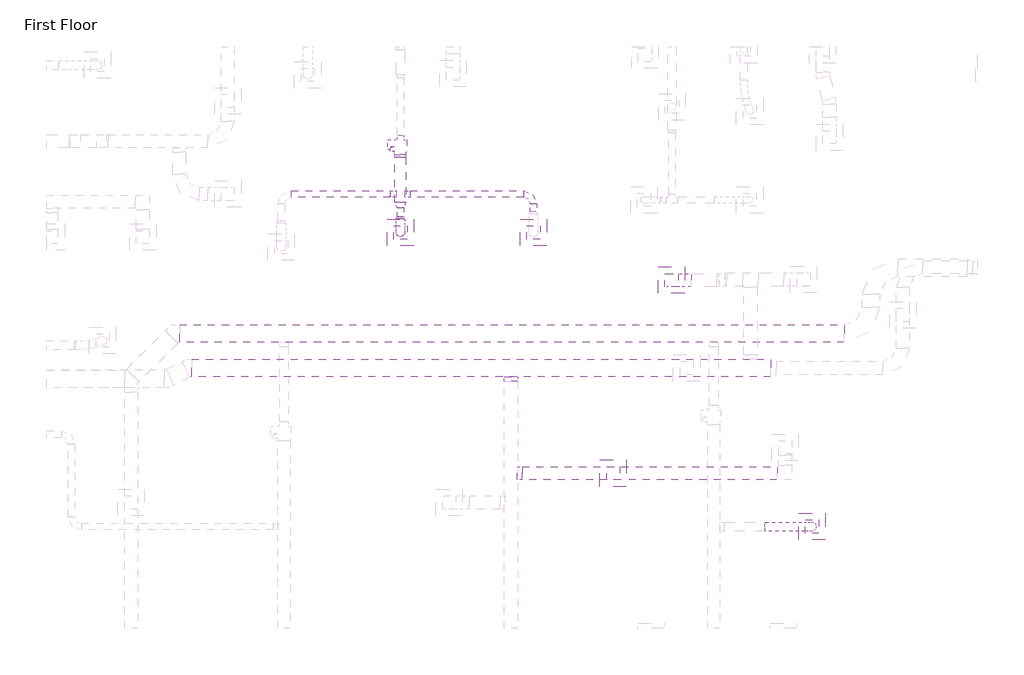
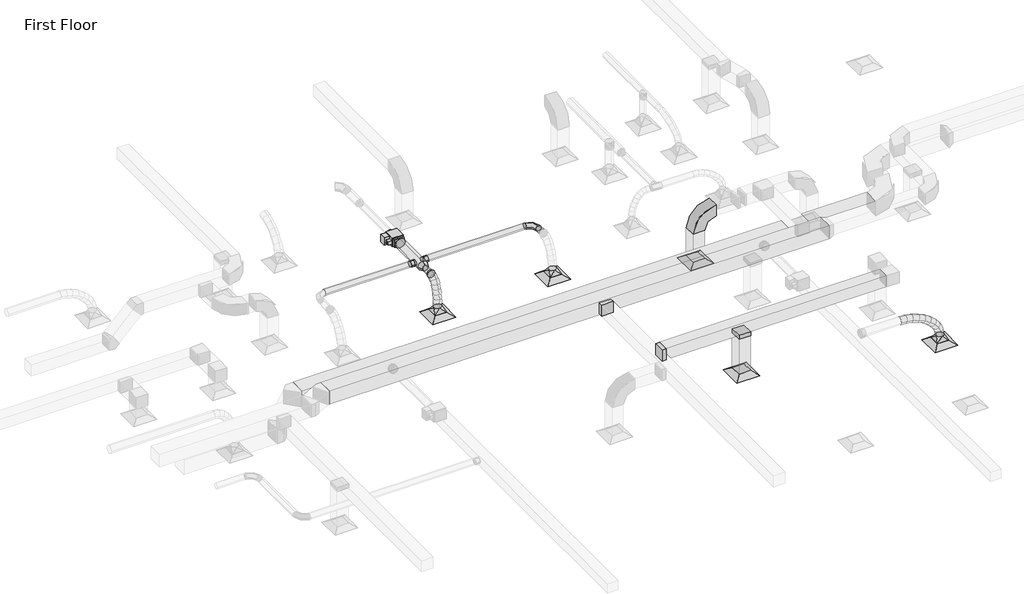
# One storey, part 17 of 61: 13 duct fittings, 12 duct segments, 5 air terminals, 1 proxy.
"""IFC4 building model written with IfcOpenShell, lengths in millimetres."""

from ifc_helpers import new_model, si_unit, point, frame, frame_2d, origin, place, context, project, spatial, polyline, circle_curve, ellipse_curve, trimmed, segment, composite_curve, outline, extrude, transform, mapped, element, save
from ifc_brep_helpers import plane_surface, cylinder_surface, advanced_brep
from components import m_exhaust_grill_er_600_x_600_face_300_x_300_connection_ff221211, m_vav_unit_single_duct_150_mm_ffdab17b, m_rectangular_elbow_radius_1_5_w_86011e9f, m_rectangular_takeoff_standard_c00386d1, m_rectangular_takeoff_standard_b44bfa45, m_rectangular_to_round_transition_angle_45_degree_60daae35, m_rectangular_to_round_transition_angle_45_degree_a335dc79, m_round_elbow_1_5_d_2e586196, m_round_takeoff_standard_b5c2ee18, m_round_takeoff_standard_ab57c574, m_round_transition_angle_45_degree_3fc7b733, m_round_transition_angle_45_degree_25573e05

model = new_model("IFC4")

# Units and contexts
model_context = context("Model", 3, world=origin())
ifc_project = project(units=[si_unit("LENGTHUNIT", "METRE", prefix="MILLI")], contexts=[model_context])

# Site, building, storey
site = spatial("IfcSite", under=ifc_project)
building = spatial("IfcBuilding", under=site)
storey = spatial("IfcBuildingStorey", under=building, Name="First Floor", Elevation=0.0)

# Air terminals
placement = place(None, origin())
m_exhaust_grill_er_600_x_600_face_300_x_300_connection_shape = m_exhaust_grill_er_600_x_600_face_300_x_300_connection_ff221211(model_context)
element("IfcAirTerminal", 1, ObjectType="M_Return Register : RR-600 x 600 Face 300 x 300 Connection", at=placement, inside=storey, context=model_context, shape_type="MappedRepresentation", body=[
    mapped(m_exhaust_grill_er_600_x_600_face_300_x_300_connection_shape, transform((-25363.5618049, 8398.5997354, 2680.0), x_axis=(1.0, 0.0, 0.0), y_axis=(0.0, 1.0, 0.0), z_axis=(0.0, 0.0, 1.0))),
])
element("IfcAirTerminal", 2, ObjectType="M_Return Register : RR-600 x 600 Face 300 x 300 Connection", at=placement, inside=storey, context=model_context, shape_type="MappedRepresentation", body=[
    mapped(m_exhaust_grill_er_600_x_600_face_300_x_300_connection_shape, transform((-24047.3621793, 12763.224946, 2680.0), x_axis=(1.0, 0.0, 0.0), y_axis=(0.0, 1.0, 0.0), z_axis=(0.0, 0.0, 1.0))),
])
element("IfcAirTerminal", 3, ObjectType="M_Supply Diffuser : SD-600 x 600 Face 300 x 300 Connection", at=placement, inside=storey, context=model_context, shape_type="MappedRepresentation", body=[
    mapped(m_exhaust_grill_er_600_x_600_face_300_x_300_connection_shape, transform((-20866.886103, 7192.6438141, 2680.0), x_axis=(1.0, 0.0, 0.0), y_axis=(0.0, 1.0, 0.0), z_axis=(0.0, 0.0, 1.0))),
])
element("IfcAirTerminal", 4, ObjectType="M_Supply Diffuser : SD-600 x 600 Face 300 x 300 Connection", at=placement, inside=storey, context=model_context, shape_type="MappedRepresentation", body=[
    mapped(m_exhaust_grill_er_600_x_600_face_300_x_300_connection_shape, transform((-30173.6102802, 13843.104531, 2680.0), x_axis=(1.0, 0.0, 0.0), y_axis=(0.0, 1.0, 0.0), z_axis=(0.0, 0.0, 1.0))),
])
element("IfcAirTerminal", 5, ObjectType="M_Supply Diffuser : SD-600 x 600 Face 300 x 300 Connection", at=placement, inside=storey, context=model_context, shape_type="MappedRepresentation", body=[
    mapped(m_exhaust_grill_er_600_x_600_face_300_x_300_connection_shape, transform((-27166.0530571, 13843.104531, 2680.0), x_axis=(1.0, 0.0, 0.0), y_axis=(0.0, 1.0, 0.0), z_axis=(0.0, 0.0, 1.0))),
])

# Proxy
m_vav_unit_single_duct_150_mm_shape = m_vav_unit_single_duct_150_mm_ffdab17b(model_context)
element("IfcBuildingElementProxy", 6, Name="M_VAV Unit - Single Duct : 150 mm", ObjectType="M_VAV Unit - Single Duct : 150 mm", at=placement, inside=storey, context=model_context, shape_type="MappedRepresentation", body=[
    mapped(m_vav_unit_single_duct_150_mm_shape, transform((-30173.6102802, 15943.104531, 3500.0), x_axis=(0.0, -1.0000000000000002, 0.0), y_axis=(1.0000000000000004, 0.0, 0.0), z_axis=(0.0, 0.0, 1.0000000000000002))),
])

# Duct fittings
m_rectangular_elbow_radius_1_5_w_shape = m_rectangular_elbow_radius_1_5_w_86011e9f(model_context)
element("IfcDuctFitting", 7, ObjectType="M_Rectangular Elbow - Radius : 1.5 W", at=placement, inside=storey, context=model_context, shape_type="MappedRepresentation", body=[
    mapped(m_rectangular_elbow_radius_1_5_w_shape, transform((-24047.3621793, 12763.224946, 4000.0), x_axis=(0.0, 0.0, 1.0), y_axis=(1.0, 0.0, 0.0), z_axis=(0.0, 1.0, 0.0))),
])
m_rectangular_takeoff_standard_shape = m_rectangular_takeoff_standard_c00386d1(model_context)
element("IfcDuctFitting", 8, ObjectType="M_Rectangular Takeoff : Standard", at=placement, inside=storey, context=model_context, shape_type="MappedRepresentation", body=[
    mapped(m_rectangular_takeoff_standard_shape, transform((-25363.5618049, 8398.5997354, 3850.0), x_axis=(0.0, 0.0, -1.0), y_axis=(0.0, 1.0, 0.0), z_axis=(1.0, 0.0, 0.0))),
])
element("IfcDuctFitting", 9, ObjectType="M_Rectangular Takeoff : Standard", at=placement, inside=storey, context=model_context, shape_type="MappedRepresentation", body=[
    mapped(m_rectangular_takeoff_standard_shape, transform((-27671.2581409, 10577.8718477, 4000.0), x_axis=(0.0, -1.0, 0.0), y_axis=(-1.0, 0.0, 0.0), z_axis=(0.0, 0.0, -1.0))),
])
m_rectangular_takeoff_standard_2_shape = m_rectangular_takeoff_standard_b44bfa45(model_context)
element("IfcDuctFitting", 10, ObjectType="M_Rectangular Takeoff : Standard", at=placement, inside=storey, context=model_context, shape_type="MappedRepresentation", body=[
    mapped(m_rectangular_takeoff_standard_2_shape, transform((-27521.2581409, 8398.5997354, 4000.0), x_axis=(1.0, 0.0, 0.0), y_axis=(0.0, -1.0, 0.0), z_axis=(0.0, 0.0, -1.0))),
])
m_rectangular_to_round_transition_angle_45_degree_shape = m_rectangular_to_round_transition_angle_45_degree_60daae35(model_context)
element("IfcDuctFitting", 11, ObjectType="M_Rectangular to Round Transition - Angle : 45 Degree", at=placement, inside=storey, context=model_context, shape_type="MappedRepresentation", body=[
    mapped(m_rectangular_to_round_transition_angle_45_degree_shape, transform((-20866.886103, 7192.6438141, 2781.6), x_axis=(0.0, 0.0, 1.0), y_axis=(1.0, 0.0, 0.0), z_axis=(0.0, 1.0, 0.0))),
])
element("IfcDuctFitting", 12, ObjectType="M_Rectangular to Round Transition - Angle : 45 Degree", at=placement, inside=storey, context=model_context, shape_type="MappedRepresentation", body=[
    mapped(m_rectangular_to_round_transition_angle_45_degree_shape, transform((-27166.0530571, 13843.104531, 2781.6), x_axis=(0.0, 0.0, 1.0), y_axis=(1.0, 0.0, 0.0), z_axis=(0.0, 1.0, 0.0))),
])
element("IfcDuctFitting", 13, ObjectType="M_Rectangular to Round Transition - Angle : 45 Degree", at=placement, inside=storey, context=model_context, shape_type="MappedRepresentation", body=[
    mapped(m_rectangular_to_round_transition_angle_45_degree_shape, transform((-30173.6102802, 13843.104531, 2781.6), x_axis=(0.0, 0.0, 1.0), y_axis=(1.0, 0.0, 0.0), z_axis=(0.0, 1.0, 0.0))),
])
m_rectangular_to_round_transition_angle_45_degree_2_shape = m_rectangular_to_round_transition_angle_45_degree_a335dc79(model_context)
element("IfcDuctFitting", 14, ObjectType="M_Rectangular to Round Transition - Angle : 45 Degree", at=placement, inside=storey, context=model_context, shape_type="MappedRepresentation", body=[
    mapped(m_rectangular_to_round_transition_angle_45_degree_2_shape, transform((-30173.6102802, 15600.304531, 3619.05), x_axis=(0.0, -1.0, 0.0), y_axis=(1.0, 0.0, 0.0), z_axis=(0.0, 0.0, 1.0))),
])
m_round_elbow_1_5_d_shape = m_round_elbow_1_5_d_2e586196(model_context)
element("IfcDuctFitting", 15, ObjectType="M_Round Elbow : 1.5 D", at=placement, inside=storey, context=model_context, shape_type="MappedRepresentation", body=[
    mapped(m_round_elbow_1_5_d_shape, transform((-27166.0530571, 14711.7643739, 3619.1), x_axis=(0.0, 1.0, 0.0), y_axis=(-1.0, 0.0, 0.0), z_axis=(0.0, 0.0, 1.0))),
])
m_round_takeoff_standard_shape = m_round_takeoff_standard_b5c2ee18(model_context)
element("IfcDuctFitting", 16, ObjectType="M_Round Takeoff : Standard", at=placement, inside=storey, context=model_context, shape_type="MappedRepresentation", body=[
    mapped(m_round_takeoff_standard_shape, transform((-30048.6102802, 14711.7643739, 3619.1), x_axis=(1.0, 0.0, 0.0), y_axis=(0.0, -1.0, 0.0), z_axis=(0.0, 0.0, -1.0))),
])
m_round_takeoff_standard_2_shape = m_round_takeoff_standard_ab57c574(model_context)
element("IfcDuctFitting", 17, ObjectType="M_Round Takeoff : Standard", at=placement, inside=storey, context=model_context, shape_type="MappedRepresentation", body=[
    mapped(m_round_takeoff_standard_2_shape, transform((-30298.6102802, 14711.7643739, 3619.1), x_axis=(-1.0, 0.0, 0.0), y_axis=(0.0, 1.0, 0.0), z_axis=(0.0, 0.0, -1.0))),
])
m_round_transition_angle_45_degree_shape = m_round_transition_angle_45_degree_3fc7b733(model_context)
element("IfcDuctFitting", 18, ObjectType="M_Round Transition - Angle : 45 Degree", at=placement, inside=storey, context=model_context, shape_type="MappedRepresentation", body=[
    mapped(m_round_transition_angle_45_degree_shape, transform((-30173.6102802, 14200.304531, 3619.1), x_axis=(0.0, -1.0, 0.0), y_axis=(1.0, 0.0, 0.0), z_axis=(0.0, 0.0, 1.0))),
])
m_round_transition_angle_45_degree_2_shape = m_round_transition_angle_45_degree_25573e05(model_context)
element("IfcDuctFitting", 19, ObjectType="M_Round Transition - Angle : 45 Degree", at=placement, inside=storey, context=model_context, shape_type="MappedRepresentation", body=[
    mapped(m_round_transition_angle_45_degree_2_shape, transform((-30173.6102802, 14400.304531, 3619.1), x_axis=(0.0, 1.0, 0.0), y_axis=(-1.0, 0.0, 0.0), z_axis=(0.0, 0.0, 1.0))),
])

# Duct segments
element("IfcDuctSegment", 20, ObjectType="Flex - Round", at=placement, inside=storey, context=model_context, shape_type="AdvancedBrep", body=[
    advanced_brep(
    [(-21926.3984341, 7292.6438141, 3644.1), (-21933.8801089, 7192.6438141, 3544.38027), (-21926.3984341, 7092.6438141, 3644.1), (-21918.9167594, 7192.6438141, 3743.81973), (-21776.5167047, 7292.6438141, 3632.8548196), (-21790.4654941, 7192.6438141, 3533.6202981), (-21776.5167047, 7092.6438141, 3632.8548196), (-21762.5679153, 7192.6438141, 3732.0893412), (-20866.886103, 7292.6438141, 2902.3106781), (-20768.1313425, 7192.6438141, 2918.0427241), (-20866.886103, 7092.6438141, 2902.3106781), (-20965.6408635, 7192.6438141, 2886.5786322), (-21618.8184035, 7292.6438141, 3600.1629223), (-21644.7759817, 7192.6438141, 3503.4179018), (-21618.8184035, 7092.6438141, 3600.1629223), (-21592.8608253, 7192.6438141, 3696.9079428), (-21460.0990046, 7292.6438141, 3547.5897736), (-21496.9666156, 7192.6438141, 3454.4585191), (-21460.0990046, 7092.6438141, 3547.5897736), (-21423.2313936, 7192.6438141, 3640.721028), (-21307.1539819, 7292.6438141, 3476.7008391), (-21354.8425657, 7192.6438141, 3388.5850289), (-21307.1539819, 7092.6438141, 3476.7008391), (-21259.4653982, 7192.6438141, 3564.8166494), (-21166.7788096, 7292.6438141, 3389.0615846), (-21225.9499244, 7192.6438141, 3308.1145668), (-21166.7788096, 7092.6438141, 3389.0615846), (-21107.6076947, 7192.6438141, 3470.0086025), (-21045.7689615, 7292.6438141, 3286.2374756), (-21117.5103126, 7192.6438141, 3215.9715996), (-21045.7689615, 7092.6438141, 3286.2374756), (-20974.0276103, 7192.6438141, 3356.5033517), (-20950.9199116, 7292.6438141, 3169.7939778), (-21035.8981828, 7192.6438141, 3115.7786943), (-20950.9199116, 7092.6438141, 3169.7939778), (-20865.9416405, 7192.6438141, 3223.8092613), (-20889.0271342, 7292.6438141, 3041.2965567), (-20985.4774267, 7192.6438141, 3011.0986752), (-20889.0271342, 7092.6438141, 3041.2965567), (-20792.5768417, 7192.6438141, 3071.4944383)],
    [
        (0, 1, circle_curve(frame((-21926.3984341, 7192.6438141, 3644.1), z_axis=(-0.9971972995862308, 0.0, 0.0748167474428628), x_axis=(0.0, 1.0, 0.0)), 100.0)),
        (1, 2, circle_curve(frame((-21926.3984341, 7192.6438141, 3644.1), z_axis=(-0.9971972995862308, 0.0, 0.0748167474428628), x_axis=(0.0, 1.0, 0.0)), 100.0)),
        (2, 3, circle_curve(frame((-21926.3984341, 7192.6438141, 3644.1), z_axis=(-0.9971972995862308, 0.0, 0.0748167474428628), x_axis=(0.0, 1.0, 0.0)), 100.0)),
        (3, 0, circle_curve(frame((-21926.3984341, 7192.6438141, 3644.1), z_axis=(-0.9971972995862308, 0.0, 0.0748167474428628), x_axis=(0.0, 1.0, 0.0)), 100.0)),
        (0, 4),
        (4, 5, ellipse_curve(frame((-21776.5167047, 7192.6438141, 3632.8548196), z_axis=(-0.9902649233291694, 0.0, 0.13919547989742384), x_axis=(-0.1391954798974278, 0.0, -0.9902649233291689)), 100.2100743, 100.0)),
        (5, 1),
        (5, 6, ellipse_curve(frame((-21776.5167047, 7192.6438141, 3632.8548196), z_axis=(-0.9902649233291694, 0.0, 0.13919547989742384), x_axis=(-0.1391954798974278, 0.0, -0.9902649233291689)), 100.2100743, 100.0)),
        (6, 2),
        (6, 7, ellipse_curve(frame((-21776.5167047, 7192.6438141, 3632.8548196), z_axis=(-0.9902649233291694, 0.0, 0.13919547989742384), x_axis=(-0.1391954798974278, 0.0, -0.9902649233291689)), 100.2100743, 100.0)),
        (7, 3),
        (7, 4, ellipse_curve(frame((-21776.5167047, 7192.6438141, 3632.8548196), z_axis=(-0.9902649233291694, 0.0, 0.13919547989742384), x_axis=(-0.1391954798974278, 0.0, -0.9902649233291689)), 100.2100743, 100.0)),
        (8, 9, circle_curve(frame((-20866.886103, 7192.6438141, 2902.3106781), z_axis=(0.15732045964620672, 0.0, -0.9875476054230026), x_axis=(0.0, 1.0, 0.0)), 100.0)),
        (9, 10, circle_curve(frame((-20866.886103, 7192.6438141, 2902.3106781), z_axis=(0.15732045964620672, 0.0, -0.9875476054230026), x_axis=(0.0, 1.0, 0.0)), 100.0)),
        (10, 11, circle_curve(frame((-20866.886103, 7192.6438141, 2902.3106781), z_axis=(0.15732045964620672, 0.0, -0.9875476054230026), x_axis=(0.0, 1.0, 0.0)), 100.0)),
        (11, 8, circle_curve(frame((-20866.886103, 7192.6438141, 2902.3106781), z_axis=(0.15732045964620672, 0.0, -0.9875476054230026), x_axis=(0.0, 1.0, 0.0)), 100.0)),
        (4, 12),
        (12, 13, ellipse_curve(frame((-21618.8184035, 7192.6438141, 3600.1629223), z_axis=(-0.9658388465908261, 0.0, 0.25914343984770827), x_axis=(-0.2591434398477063, 0.0, -0.9658388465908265)), 100.1668351, 100.0)),
        (13, 5),
        (13, 14, ellipse_curve(frame((-21618.8184035, 7192.6438141, 3600.1629223), z_axis=(-0.9658388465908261, 0.0, 0.25914343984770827), x_axis=(-0.2591434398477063, 0.0, -0.9658388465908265)), 100.1668351, 100.0)),
        (14, 6),
        (14, 15, ellipse_curve(frame((-21618.8184035, 7192.6438141, 3600.1629223), z_axis=(-0.9658388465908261, 0.0, 0.25914343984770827), x_axis=(-0.2591434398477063, 0.0, -0.9658388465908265)), 100.1668351, 100.0)),
        (15, 7),
        (15, 12, ellipse_curve(frame((-21618.8184035, 7192.6438141, 3600.1629223), z_axis=(-0.9658388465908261, 0.0, 0.25914343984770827), x_axis=(-0.2591434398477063, 0.0, -0.9658388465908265)), 100.1668351, 100.0)),
        (12, 16),
        (16, 17, ellipse_curve(frame((-21460.0990046, 7192.6438141, 3547.5897736), z_axis=(-0.9297958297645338, 0.0, 0.3680756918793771), x_axis=(-0.3680756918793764, 0.0, -0.9297958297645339)), 100.1631234, 100.0)),
        (17, 13),
        (17, 18, ellipse_curve(frame((-21460.0990046, 7192.6438141, 3547.5897736), z_axis=(-0.9297958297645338, 0.0, 0.3680756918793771), x_axis=(-0.3680756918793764, 0.0, -0.9297958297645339)), 100.1631234, 100.0)),
        (18, 14),
        (18, 19, ellipse_curve(frame((-21460.0990046, 7192.6438141, 3547.5897736), z_axis=(-0.9297958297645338, 0.0, 0.3680756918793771), x_axis=(-0.3680756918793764, 0.0, -0.9297958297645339)), 100.1631234, 100.0)),
        (19, 15),
        (19, 16, ellipse_curve(frame((-21460.0990046, 7192.6438141, 3547.5897736), z_axis=(-0.9297958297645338, 0.0, 0.3680756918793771), x_axis=(-0.3680756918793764, 0.0, -0.9297958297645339)), 100.1631234, 100.0)),
        (16, 20),
        (20, 21, ellipse_curve(frame((-21307.1539819, 7192.6438141, 3476.7008391), z_axis=(-0.8794625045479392, 0.0, 0.4759681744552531), x_axis=(-0.47596817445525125, 0.0, -0.8794625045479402)), 100.1927993, 100.0)),
        (21, 17),
        (21, 22, ellipse_curve(frame((-21307.1539819, 7192.6438141, 3476.7008391), z_axis=(-0.8794625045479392, 0.0, 0.4759681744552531), x_axis=(-0.47596817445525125, 0.0, -0.8794625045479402)), 100.1927993, 100.0)),
        (22, 18),
        (22, 23, ellipse_curve(frame((-21307.1539819, 7192.6438141, 3476.7008391), z_axis=(-0.8794625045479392, 0.0, 0.4759681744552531), x_axis=(-0.47596817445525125, 0.0, -0.8794625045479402)), 100.1927993, 100.0)),
        (23, 19),
        (23, 20, ellipse_curve(frame((-21307.1539819, 7192.6438141, 3476.7008391), z_axis=(-0.8794625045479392, 0.0, 0.4759681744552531), x_axis=(-0.47596817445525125, 0.0, -0.8794625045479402)), 100.1927993, 100.0)),
        (20, 24),
        (24, 25, ellipse_curve(frame((-21166.7788096, 7192.6438141, 3389.0615846), z_axis=(-0.8073078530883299, 0.0, 0.5901305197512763), x_axis=(-0.5901305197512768, 0.0, -0.8073078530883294)), 100.267844, 100.0)),
        (25, 21),
        (25, 26, ellipse_curve(frame((-21166.7788096, 7192.6438141, 3389.0615846), z_axis=(-0.8073078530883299, 0.0, 0.5901305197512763), x_axis=(-0.5901305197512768, 0.0, -0.8073078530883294)), 100.267844, 100.0)),
        (26, 22),
        (26, 27, ellipse_curve(frame((-21166.7788096, 7192.6438141, 3389.0615846), z_axis=(-0.8073078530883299, 0.0, 0.5901305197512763), x_axis=(-0.5901305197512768, 0.0, -0.8073078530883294)), 100.267844, 100.0)),
        (27, 23),
        (27, 24, ellipse_curve(frame((-21166.7788096, 7192.6438141, 3389.0615846), z_axis=(-0.8073078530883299, 0.0, 0.5901305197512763), x_axis=(-0.5901305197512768, 0.0, -0.8073078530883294)), 100.267844, 100.0)),
        (24, 28),
        (28, 29, ellipse_curve(frame((-21045.7689615, 7192.6438141, 3286.2374756), z_axis=(-0.6997220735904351, 0.0, 0.7144151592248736), x_axis=(-0.7144151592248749, 0.0, -0.6997220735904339)), 100.4196933, 100.0)),
        (29, 25),
        (29, 30, ellipse_curve(frame((-21045.7689615, 7192.6438141, 3286.2374756), z_axis=(-0.6997220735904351, 0.0, 0.7144151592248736), x_axis=(-0.7144151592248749, 0.0, -0.6997220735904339)), 100.4196933, 100.0)),
        (30, 26),
        (30, 31, ellipse_curve(frame((-21045.7689615, 7192.6438141, 3286.2374756), z_axis=(-0.6997220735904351, 0.0, 0.7144151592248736), x_axis=(-0.7144151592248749, 0.0, -0.6997220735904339)), 100.4196933, 100.0)),
        (31, 27),
        (31, 28, ellipse_curve(frame((-21045.7689615, 7192.6438141, 3286.2374756), z_axis=(-0.6997220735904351, 0.0, 0.7144151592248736), x_axis=(-0.7144151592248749, 0.0, -0.6997220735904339)), 100.4196933, 100.0)),
        (28, 32),
        (32, 33, ellipse_curve(frame((-20950.9199116, 7192.6438141, 3169.7939778), z_axis=(-0.5364385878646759, 0.0, 0.8439393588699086), x_axis=(-0.8439393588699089, 0.0, -0.5364385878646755)), 100.6923901, 100.0)),
        (33, 29),
        (33, 34, ellipse_curve(frame((-20950.9199116, 7192.6438141, 3169.7939778), z_axis=(-0.5364385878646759, 0.0, 0.8439393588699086), x_axis=(-0.8439393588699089, 0.0, -0.5364385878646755)), 100.6923901, 100.0)),
        (34, 30),
        (34, 35, ellipse_curve(frame((-20950.9199116, 7192.6438141, 3169.7939778), z_axis=(-0.5364385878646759, 0.0, 0.8439393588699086), x_axis=(-0.8439393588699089, 0.0, -0.5364385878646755)), 100.6923901, 100.0)),
        (35, 31),
        (35, 32, ellipse_curve(frame((-20950.9199116, 7192.6438141, 3169.7939778), z_axis=(-0.5364385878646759, 0.0, 0.8439393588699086), x_axis=(-0.8439393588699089, 0.0, -0.5364385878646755)), 100.6923901, 100.0)),
        (32, 36),
        (36, 37, ellipse_curve(frame((-20889.0271342, 7192.6438141, 3041.2965567), z_axis=(-0.2987902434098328, 0.0, 0.9543188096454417), x_axis=(-0.9543188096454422, 0.0, -0.2987902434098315)), 101.0671607, 100.0)),
        (37, 33),
        (37, 38, ellipse_curve(frame((-20889.0271342, 7192.6438141, 3041.2965567), z_axis=(-0.2987902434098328, 0.0, 0.9543188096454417), x_axis=(-0.9543188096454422, 0.0, -0.2987902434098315)), 101.0671607, 100.0)),
        (38, 34),
        (38, 39, ellipse_curve(frame((-20889.0271342, 7192.6438141, 3041.2965567), z_axis=(-0.2987902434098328, 0.0, 0.9543188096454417), x_axis=(-0.9543188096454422, 0.0, -0.2987902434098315)), 101.0671607, 100.0)),
        (39, 35),
        (39, 36, ellipse_curve(frame((-20889.0271342, 7192.6438141, 3041.2965567), z_axis=(-0.2987902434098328, 0.0, 0.9543188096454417), x_axis=(-0.9543188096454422, 0.0, -0.2987902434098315)), 101.0671607, 100.0)),
        (36, 8),
        (11, 37),
        (10, 38),
        (9, 39),
    ],
    [
        plane_surface(frame((-21926.3984341, 7292.6438141, 3644.1), z_axis=(-0.9971972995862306, 0.0, 0.07481674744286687), x_axis=(0.07481674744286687, 0.0, 0.9971972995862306))),
        cylinder_surface(frame((-21926.3984341, 7192.6438141, 3644.1), z_axis=(-0.9971972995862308, 0.0, 0.0748167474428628), x_axis=(0.0, 1.0, 0.0)), 100.0),
        plane_surface(frame((-20866.886103, 7292.6438141, 2902.3106781), z_axis=(0.15732045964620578, 0.0, -0.9875476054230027), x_axis=(0.9875476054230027, 0.0, 0.15732045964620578))),
        cylinder_surface(frame((-21776.5167047, 7192.6438141, 3632.8548196), z_axis=(-0.9791806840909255, 0.0, 0.20299061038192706), x_axis=(0.0, 1.0, 0.0)), 100.0),
        cylinder_surface(frame((-21618.8184035, 7192.6438141, 3600.1629223), z_axis=(-0.9492796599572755, 0.0, 0.31443302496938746), x_axis=(0.0, 1.0, 0.0)), 100.0),
        cylinder_surface(frame((-21460.0990046, 7192.6438141, 3547.5897736), z_axis=(-0.9072835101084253, 0.0, 0.4205194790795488), x_axis=(0.0, 1.0, 0.0)), 100.0),
        cylinder_surface(frame((-21307.1539819, 7192.6438141, 3476.7008391), z_axis=(-0.8482568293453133, 0.0, 0.5295850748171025), x_axis=(0.0, 1.0, 0.0)), 100.0),
        cylinder_surface(frame((-21166.7788096, 7192.6438141, 3389.0615846), z_axis=(-0.7620457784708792, 0.0, 0.6475231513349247), x_axis=(0.0, 1.0, 0.0)), 100.0),
        cylinder_surface(frame((-21045.7689615, 7192.6438141, 3286.2374756), z_axis=(-0.6315495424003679, 0.0, 0.7753355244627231), x_axis=(0.0, 1.0, 0.0)), 100.0),
        cylinder_surface(frame((-20950.9199116, 7192.6438141, 3169.7939778), z_axis=(-0.43395021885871, 0.0, 0.9009368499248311), x_axis=(0.0, 1.0, 0.0)), 100.0),
        cylinder_surface(frame((-20889.0271342, 7192.6438141, 3041.2965567), z_axis=(-0.15732045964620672, 0.0, 0.9875476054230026), x_axis=(0.0, 1.0, 0.0)), 100.0),
    ],
    [
        (0, [[1, 2, 3, 4]]),
        (1, [[-1, 5, 6, 7]]),
        (1, [[-2, -7, 8, 9]]),
        (1, [[-3, -9, 10, 11]]),
        (1, [[-4, -11, 12, -5]]),
        (2, [[13, 14, 15, 16]]),
        (3, [[-6, 17, 18, 19]]),
        (3, [[-8, -19, 20, 21]]),
        (3, [[-10, -21, 22, 23]]),
        (3, [[-12, -23, 24, -17]]),
        (4, [[-18, 25, 26, 27]]),
        (4, [[-20, -27, 28, 29]]),
        (4, [[-22, -29, 30, 31]]),
        (4, [[-24, -31, 32, -25]]),
        (5, [[-26, 33, 34, 35]]),
        (5, [[-28, -35, 36, 37]]),
        (5, [[-30, -37, 38, 39]]),
        (5, [[-32, -39, 40, -33]]),
        (6, [[-34, 41, 42, 43]]),
        (6, [[-36, -43, 44, 45]]),
        (6, [[-38, -45, 46, 47]]),
        (6, [[-40, -47, 48, -41]]),
        (7, [[-42, 49, 50, 51]]),
        (7, [[-44, -51, 52, 53]]),
        (7, [[-46, -53, 54, 55]]),
        (7, [[-48, -55, 56, -49]]),
        (8, [[-50, 57, 58, 59]]),
        (8, [[-52, -59, 60, 61]]),
        (8, [[-54, -61, 62, 63]]),
        (8, [[-56, -63, 64, -57]]),
        (9, [[-58, 65, 66, 67]]),
        (9, [[-60, -67, 68, 69]]),
        (9, [[-62, -69, 70, 71]]),
        (9, [[-64, -71, 72, -65]]),
        (10, [[-66, 73, -16, 74]]),
        (10, [[-68, -74, -15, 75]]),
        (10, [[-70, -75, -14, 76]]),
        (10, [[-72, -76, -13, -73]]),
    ],
),
])
element("IfcDuctSegment", 21, ObjectType="Flex - Round", at=placement, inside=storey, context=model_context, shape_type="AdvancedBrep", body=[
    advanced_brep(
    [(-30073.6102802, 14139.9491919, 3619.1), (-30173.6102802, 14162.5571028, 3521.6891055), (-30273.6102802, 14139.9491919, 3619.1), (-30173.6102802, 14117.3412811, 3716.5108945), (-30073.6102802, 14052.945317, 3598.9074347), (-30173.6102802, 14097.9766941, 3506.7007602), (-30273.6102802, 14052.945317, 3598.9074347), (-30173.6102802, 14007.9139398, 3691.1141092), (-30073.6102802, 13843.104531, 2902.3106781), (-30173.6102802, 13743.1254312, 2904.3550879), (-30273.6102802, 13843.104531, 2902.3106781), (-30173.6102802, 13943.0836307, 2900.2662683), (-30073.6102802, 13984.4668906, 3543.4684428), (-30173.6102802, 14060.3185214, 3476.2133316), (-30273.6102802, 13984.4668906, 3543.4684428), (-30173.6102802, 13908.6152599, 3610.723554), (-30073.6102802, 13932.3795161, 3460.4910805), (-30173.6102802, 14022.6235339, 3416.1636427), (-30273.6102802, 13932.3795161, 3460.4910805), (-30173.6102802, 13842.1354984, 3504.8185183), (-30073.6102802, 13894.5487965, 3357.683404), (-30173.6102802, 13990.688441, 3329.3777519), (-30273.6102802, 13894.5487965, 3357.683404), (-30173.6102802, 13798.4091521, 3385.9890561), (-30073.6102802, 13868.8403351, 3242.7534693), (-30173.6102802, 13967.4017333, 3225.2742919), (-30273.6102802, 13868.8403351, 3242.7534693), (-30173.6102802, 13770.2789368, 3260.2326467), (-30073.6102802, 13853.1197349, 3123.4093327), (-30173.6102802, 13952.6766618, 3113.4877868), (-30273.6102802, 13853.1197349, 3123.4093327), (-30173.6102802, 13753.5628081, 3133.3308786), (-30073.6102802, 13845.2525992, 3007.3590502), (-30173.6102802, 13945.1833993, 3002.9526114), (-30273.6102802, 13845.2525992, 3007.3590502), (-30173.6102802, 13745.321799, 3011.765489)],
    [
        (0, 1, circle_curve(frame((-30173.6102802, 14139.9491919, 3619.1), z_axis=(0.0, 0.9741089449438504, 0.22607910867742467), x_axis=(1.0, 0.0, 0.0)), 100.0)),
        (1, 2, circle_curve(frame((-30173.6102802, 14139.9491919, 3619.1), z_axis=(0.0, 0.9741089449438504, 0.22607910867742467), x_axis=(1.0, 0.0, 0.0)), 100.0)),
        (2, 3, circle_curve(frame((-30173.6102802, 14139.9491919, 3619.1), z_axis=(0.0, 0.9741089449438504, 0.22607910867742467), x_axis=(1.0, 0.0, 0.0)), 100.0)),
        (3, 0, circle_curve(frame((-30173.6102802, 14139.9491919, 3619.1), z_axis=(0.0, 0.9741089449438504, 0.22607910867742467), x_axis=(1.0, 0.0, 0.0)), 100.0)),
        (0, 4),
        (4, 5, ellipse_curve(frame((-30173.6102802, 14052.945317, 3598.9074347), z_axis=(0.0, 0.8985667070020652, 0.4388369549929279), x_axis=(0.0, 0.43883695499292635, -0.8985667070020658)), 102.6152803, 100.0)),
        (5, 1),
        (5, 6, ellipse_curve(frame((-30173.6102802, 14052.945317, 3598.9074347), z_axis=(0.0, 0.8985667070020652, 0.4388369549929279), x_axis=(0.0, 0.43883695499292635, -0.8985667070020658)), 102.6152803, 100.0)),
        (6, 2),
        (6, 7, ellipse_curve(frame((-30173.6102802, 14052.945317, 3598.9074347), z_axis=(0.0, 0.8985667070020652, 0.4388369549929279), x_axis=(0.0, 0.43883695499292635, -0.8985667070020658)), 102.6152803, 100.0)),
        (7, 3),
        (7, 4, ellipse_curve(frame((-30173.6102802, 14052.945317, 3598.9074347), z_axis=(0.0, 0.8985667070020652, 0.4388369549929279), x_axis=(0.0, 0.43883695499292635, -0.8985667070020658)), 102.6152803, 100.0)),
        (8, 9, circle_curve(frame((-30173.6102802, 13843.104531, 2902.3106781), z_axis=(0.0, -0.020444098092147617, -0.9997909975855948), x_axis=(1.0, 0.0, 0.0)), 100.0)),
        (9, 10, circle_curve(frame((-30173.6102802, 13843.104531, 2902.3106781), z_axis=(0.0, -0.020444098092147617, -0.9997909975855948), x_axis=(1.0, 0.0, 0.0)), 100.0)),
        (10, 11, circle_curve(frame((-30173.6102802, 13843.104531, 2902.3106781), z_axis=(0.0, -0.020444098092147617, -0.9997909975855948), x_axis=(1.0, 0.0, 0.0)), 100.0)),
        (11, 8, circle_curve(frame((-30173.6102802, 13843.104531, 2902.3106781), z_axis=(0.0, -0.020444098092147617, -0.9997909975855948), x_axis=(1.0, 0.0, 0.0)), 100.0)),
        (4, 12),
        (12, 13, ellipse_curve(frame((-30173.6102802, 13984.4668906, 3543.4684428), z_axis=(0.0, 0.6634344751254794, 0.7482343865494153), x_axis=(0.0, 0.748234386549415, -0.6634344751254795)), 101.3741578, 100.0)),
        (13, 5),
        (13, 14, ellipse_curve(frame((-30173.6102802, 13984.4668906, 3543.4684428), z_axis=(0.0, 0.6634344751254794, 0.7482343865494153), x_axis=(0.0, 0.748234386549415, -0.6634344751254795)), 101.3741578, 100.0)),
        (14, 6),
        (14, 15, ellipse_curve(frame((-30173.6102802, 13984.4668906, 3543.4684428), z_axis=(0.0, 0.6634344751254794, 0.7482343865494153), x_axis=(0.0, 0.748234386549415, -0.6634344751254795)), 101.3741578, 100.0)),
        (15, 7),
        (15, 12, ellipse_curve(frame((-30173.6102802, 13984.4668906, 3543.4684428), z_axis=(0.0, 0.6634344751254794, 0.7482343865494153), x_axis=(0.0, 0.748234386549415, -0.6634344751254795)), 101.3741578, 100.0)),
        (12, 16),
        (16, 17, ellipse_curve(frame((-30173.6102802, 13932.3795161, 3460.4910805), z_axis=(0.0, 0.44088018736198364, 0.897565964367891), x_axis=(0.0, 0.897565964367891, -0.44088018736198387)), 100.5430479, 100.0)),
        (17, 13),
        (17, 18, ellipse_curve(frame((-30173.6102802, 13932.3795161, 3460.4910805), z_axis=(0.0, 0.44088018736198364, 0.897565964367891), x_axis=(0.0, 0.897565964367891, -0.44088018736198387)), 100.5430479, 100.0)),
        (18, 14),
        (18, 19, ellipse_curve(frame((-30173.6102802, 13932.3795161, 3460.4910805), z_axis=(0.0, 0.44088018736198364, 0.897565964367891), x_axis=(0.0, 0.897565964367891, -0.44088018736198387)), 100.5430479, 100.0)),
        (19, 15),
        (19, 16, ellipse_curve(frame((-30173.6102802, 13932.3795161, 3460.4910805), z_axis=(0.0, 0.44088018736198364, 0.897565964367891), x_axis=(0.0, 0.897565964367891, -0.44088018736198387)), 100.5430479, 100.0)),
        (16, 20),
        (20, 21, ellipse_curve(frame((-30173.6102802, 13894.5487965, 3357.683404), z_axis=(0.0, 0.2824352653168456, 0.9592863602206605), x_axis=(0.0, 0.9592863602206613, -0.28243526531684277)), 100.2199639, 100.0)),
        (21, 17),
        (21, 22, ellipse_curve(frame((-30173.6102802, 13894.5487965, 3357.683404), z_axis=(0.0, 0.2824352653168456, 0.9592863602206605), x_axis=(0.0, 0.9592863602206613, -0.28243526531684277)), 100.2199639, 100.0)),
        (22, 18),
        (22, 23, ellipse_curve(frame((-30173.6102802, 13894.5487965, 3357.683404), z_axis=(0.0, 0.2824352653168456, 0.9592863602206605), x_axis=(0.0, 0.9592863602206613, -0.28243526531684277)), 100.2199639, 100.0)),
        (23, 19),
        (23, 20, ellipse_curve(frame((-30173.6102802, 13894.5487965, 3357.683404), z_axis=(0.0, 0.2824352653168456, 0.9592863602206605), x_axis=(0.0, 0.9592863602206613, -0.28243526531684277)), 100.2199639, 100.0)),
        (20, 24),
        (24, 25, ellipse_curve(frame((-30173.6102802, 13868.8403351, 3242.7534693), z_axis=(0.0, 0.1746183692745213, 0.9846361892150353), x_axis=(0.0, 0.984636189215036, -0.1746183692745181)), 100.099305, 100.0)),
        (25, 21),
        (25, 26, ellipse_curve(frame((-30173.6102802, 13868.8403351, 3242.7534693), z_axis=(0.0, 0.1746183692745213, 0.9846361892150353), x_axis=(0.0, 0.984636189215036, -0.1746183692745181)), 100.099305, 100.0)),
        (26, 22),
        (26, 27, ellipse_curve(frame((-30173.6102802, 13868.8403351, 3242.7534693), z_axis=(0.0, 0.1746183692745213, 0.9846361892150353), x_axis=(0.0, 0.984636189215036, -0.1746183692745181)), 100.099305, 100.0)),
        (27, 23),
        (27, 24, ellipse_curve(frame((-30173.6102802, 13868.8403351, 3242.7534693), z_axis=(0.0, 0.1746183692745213, 0.9846361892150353), x_axis=(0.0, 0.984636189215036, -0.1746183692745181)), 100.099305, 100.0)),
        (24, 28),
        (28, 29, ellipse_curve(frame((-30173.6102802, 13853.1197349, 3123.4093327), z_axis=(0.0, 0.09916579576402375, 0.9950709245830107), x_axis=(0.0, 0.9950709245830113, -0.09916579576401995)), 100.0500813, 100.0)),
        (29, 25),
        (29, 30, ellipse_curve(frame((-30173.6102802, 13853.1197349, 3123.4093327), z_axis=(0.0, 0.09916579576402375, 0.9950709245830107), x_axis=(0.0, 0.9950709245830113, -0.09916579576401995)), 100.0500813, 100.0)),
        (30, 26),
        (30, 31, ellipse_curve(frame((-30173.6102802, 13853.1197349, 3123.4093327), z_axis=(0.0, 0.09916579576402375, 0.9950709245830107), x_axis=(0.0, 0.9950709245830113, -0.09916579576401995)), 100.0500813, 100.0)),
        (31, 27),
        (31, 28, ellipse_curve(frame((-30173.6102802, 13853.1197349, 3123.4093327), z_axis=(0.0, 0.09916579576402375, 0.9950709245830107), x_axis=(0.0, 0.9950709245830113, -0.09916579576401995)), 100.0500813, 100.0)),
        (28, 32),
        (32, 33, ellipse_curve(frame((-30173.6102802, 13845.2525992, 3007.3590502), z_axis=(0.0, 0.04405209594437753, 0.9990292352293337), x_axis=(0.0, 0.9990292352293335, -0.04405209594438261)), 100.0279037, 100.0)),
        (33, 29),
        (33, 34, ellipse_curve(frame((-30173.6102802, 13845.2525992, 3007.3590502), z_axis=(0.0, 0.04405209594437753, 0.9990292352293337), x_axis=(0.0, 0.9990292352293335, -0.04405209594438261)), 100.0279037, 100.0)),
        (34, 30),
        (34, 35, ellipse_curve(frame((-30173.6102802, 13845.2525992, 3007.3590502), z_axis=(0.0, 0.04405209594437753, 0.9990292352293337), x_axis=(0.0, 0.9990292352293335, -0.04405209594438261)), 100.0279037, 100.0)),
        (35, 31),
        (35, 32, ellipse_curve(frame((-30173.6102802, 13845.2525992, 3007.3590502), z_axis=(0.0, 0.04405209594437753, 0.9990292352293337), x_axis=(0.0, 0.9990292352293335, -0.04405209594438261)), 100.0279037, 100.0)),
        (32, 8),
        (11, 33),
        (10, 34),
        (9, 35),
    ],
    [
        plane_surface(frame((-30173.6102802, 14162.5571028, 3521.6891055), z_axis=(0.0, 0.974108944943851, 0.22607910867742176), x_axis=(1.0, 0.0, 0.0))),
        cylinder_surface(frame((-30173.6102802, 14139.9491919, 3619.1), z_axis=(0.0, 0.9741089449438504, 0.22607910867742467), x_axis=(1.0, 0.0, 0.0)), 100.0),
        plane_surface(frame((-30173.6102802, 13943.0836307, 2900.2662683), z_axis=(0.0, -0.020444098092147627, -0.9997909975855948), x_axis=(1.0, 0.0, 0.0))),
        cylinder_surface(frame((-30173.6102802, 14052.945317, 3598.9074347), z_axis=(0.0, 0.7772222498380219, 0.6292261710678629), x_axis=(1.0, 0.0, 0.0)), 100.0),
        cylinder_surface(frame((-30173.6102802, 13984.4668906, 3543.4684428), z_axis=(0.0, 0.5316605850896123, 0.8469575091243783), x_axis=(1.0, 0.0, 0.0)), 100.0),
        cylinder_surface(frame((-30173.6102802, 13932.3795161, 3460.4910805), z_axis=(0.0, 0.3453372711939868, 0.9384786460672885), x_axis=(1.0, 0.0, 0.0)), 100.0),
        cylinder_surface(frame((-30173.6102802, 13894.5487965, 3357.683404), z_axis=(0.0, 0.21829347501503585, 0.9758831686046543), x_axis=(1.0, 0.0, 0.0)), 100.0),
        cylinder_surface(frame((-30173.6102802, 13868.8403351, 3242.7534693), z_axis=(0.0, 0.13059679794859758, 0.9914355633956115), x_axis=(1.0, 0.0, 0.0)), 100.0),
        cylinder_surface(frame((-30173.6102802, 13853.1197349, 3123.4093327), z_axis=(0.0, 0.0676355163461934, 0.9977100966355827), x_axis=(1.0, 0.0, 0.0)), 100.0),
        cylinder_surface(frame((-30173.6102802, 13845.2525992, 3007.3590502), z_axis=(0.0, 0.020444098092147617, 0.9997909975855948), x_axis=(1.0, 0.0, 0.0)), 100.0),
    ],
    [
        (0, [[1, 2, 3, 4]]),
        (1, [[-1, 5, 6, 7]]),
        (1, [[-2, -7, 8, 9]]),
        (1, [[-3, -9, 10, 11]]),
        (1, [[-4, -11, 12, -5]]),
        (2, [[13, 14, 15, 16]]),
        (3, [[-6, 17, 18, 19]]),
        (3, [[-8, -19, 20, 21]]),
        (3, [[-10, -21, 22, 23]]),
        (3, [[-12, -23, 24, -17]]),
        (4, [[-18, 25, 26, 27]]),
        (4, [[-20, -27, 28, 29]]),
        (4, [[-22, -29, 30, 31]]),
        (4, [[-24, -31, 32, -25]]),
        (5, [[-26, 33, 34, 35]]),
        (5, [[-28, -35, 36, 37]]),
        (5, [[-30, -37, 38, 39]]),
        (5, [[-32, -39, 40, -33]]),
        (6, [[-34, 41, 42, 43]]),
        (6, [[-36, -43, 44, 45]]),
        (6, [[-38, -45, 46, 47]]),
        (6, [[-40, -47, 48, -41]]),
        (7, [[-42, 49, 50, 51]]),
        (7, [[-44, -51, 52, 53]]),
        (7, [[-46, -53, 54, 55]]),
        (7, [[-48, -55, 56, -49]]),
        (8, [[-50, 57, 58, 59]]),
        (8, [[-52, -59, 60, 61]]),
        (8, [[-54, -61, 62, 63]]),
        (8, [[-56, -63, 64, -57]]),
        (9, [[-58, 65, -16, 66]]),
        (9, [[-60, -66, -15, 67]]),
        (9, [[-62, -67, -14, 68]]),
        (9, [[-64, -68, -13, -65]]),
    ],
),
])
element("IfcDuctSegment", 22, ObjectType="Mitered Elbows / Taps", at=placement, inside=storey, context=model_context, shape_type="SweptSolid", body=[
    extrude(outline(polyline([(-27421.2581409, 8248.5997354), (-27421.2581409, 8548.5997354), (-21649.9055852, 8548.5997354), (-21649.9055852, 8248.5997354), (-27421.2581409, 8248.5997354)])), frame((0.0, 0.0, 3850.0), z_axis=(0.0, 0.0, 1.0), x_axis=(1.0, 0.0, 0.0)), (0.0, 0.0, 1.0), 300.0),
])
element("IfcDuctSegment", 23, ObjectType="Mitered Elbows / Taps", at=placement, inside=storey, context=model_context, shape_type="SweptSolid", body=[
    extrude(outline(polyline([(-25513.5618049, 8248.5997354), (-25513.5618049, 8548.5997354), (-25213.5618049, 8548.5997354), (-25213.5618049, 8248.5997354), (-25513.5618049, 8248.5997354)])), frame((0.0, 0.0, 2781.6), z_axis=(0.0, 0.0, 1.0), x_axis=(1.0, 0.0, 0.0)), (0.0, 0.0, 1.0), 968.4),
])
element("IfcDuctSegment", 24, ObjectType="Mitered Elbows / Taps", at=placement, inside=storey, context=model_context, shape_type="SweptSolid", body=[
    extrude(outline(polyline([(-20135.3729051, 11755.6774916), (-20135.3729051, 11355.6774916), (-35167.5301926, 11355.6774916), (-35167.5301926, 11755.6774916), (-20135.3729051, 11755.6774916)])), frame((0.0, 0.0, 3409.5), z_axis=(0.0, 0.0, 1.0), x_axis=(1.0, 0.0, 0.0)), (0.0, 0.0, 1.0), 400.0),
])
element("IfcDuctSegment", 25, ObjectType="Mitered Elbows / Taps", at=placement, inside=storey, context=model_context, shape_type="SweptSolid", body=[
    extrude(outline(polyline([(-21800.1562686, 10977.8718477), (-21800.1562686, 10577.8718477), (-34888.5300677, 10577.8718477), (-34888.5300677, 10977.8718477), (-21800.1562686, 10977.8718477)])), frame((0.0, 0.0, 3825.0), z_axis=(0.0, 0.0, 1.0), x_axis=(1.0, 0.0, 0.0)), (0.0, 0.0, 1.0), 350.0),
])
element("IfcDuctSegment", 26, ObjectType="Radius Elbows / Taps", at=placement, inside=storey, context=model_context, shape_type="SweptSolid", body=[
    extrude(outline(polyline([(-23897.3621793, 12913.224946), (-23897.3621793, 12613.224946), (-24197.3621793, 12613.224946), (-24197.3621793, 12913.224946), (-23897.3621793, 12913.224946)])), frame((0.0, 0.0, 2781.6), z_axis=(0.0, 0.0, 1.0), x_axis=(1.0, 0.0, 0.0)), (0.0, 0.0, 1.0), 768.4),
])
element("IfcDuctSegment", 27, ObjectType="Taps", at=placement, inside=storey, context=model_context, shape_type="SweptSolid", body=[
    extrude(outline(composite_curve([segment(trimmed(circle_curve(frame_2d((3619.1, -30173.6102802)), 125.0), [point((3619.1, -30298.6102802))], [point((3494.1, -30173.6102802))], False, "CARTESIAN"), True, "CONTINUOUS"), segment(trimmed(circle_curve(frame_2d((3619.1, -30173.6102802)), 125.0), [point((3494.1, -30173.6102802))], [point((3619.1, -30048.6102802))], False, "CARTESIAN"), True, "CONTINUOUS"), segment(trimmed(circle_curve(frame_2d((3619.1, -30173.6102802)), 125.0), [point((3619.1, -30048.6102802))], [point((3744.1, -30173.6102802))], False, "CARTESIAN"), True, "CONTINUOUS"), segment(trimmed(circle_curve(frame_2d((3619.1, -30173.6102802)), 125.0), [point((3744.1, -30173.6102802))], [point((3619.1, -30298.6102802))], False, "CARTESIAN"), True, "CONTINUOUS")], self_intersect=False)), frame((0.0, 14521.0152091, 0.0), z_axis=(0.0, 1.0, 0.0), x_axis=(0.0, 0.0, 1.0)), (0.0, 0.0, 1.0), 1018.9340182),
])
element("IfcDuctSegment", 28, ObjectType="Taps", at=placement, inside=storey, context=model_context, shape_type="SweptSolid", body=[
    extrude(outline(composite_curve([segment(trimmed(circle_curve(frame_2d((3619.1, -30173.6102802)), 75.0), [point((3619.1, -30248.6102802))], [point((3544.1, -30173.6102802))], False, "CARTESIAN"), True, "CONTINUOUS"), segment(trimmed(circle_curve(frame_2d((3619.1, -30173.6102802)), 75.0), [point((3544.1, -30173.6102802))], [point((3619.1, -30098.6102802))], False, "CARTESIAN"), True, "CONTINUOUS"), segment(trimmed(circle_curve(frame_2d((3619.1, -30173.6102802)), 75.0), [point((3619.1, -30098.6102802))], [point((3694.1, -30173.6102802))], False, "CARTESIAN"), True, "CONTINUOUS"), segment(trimmed(circle_curve(frame_2d((3619.1, -30173.6102802)), 75.0), [point((3694.1, -30173.6102802))], [point((3619.1, -30248.6102802))], False, "CARTESIAN"), True, "CONTINUOUS")], self_intersect=False)), frame((0.0, 14200.304531, 0.0), z_axis=(0.0, 1.0, 0.0), x_axis=(0.0, 0.0, 1.0)), (0.0, 0.0, 1.0), 200.0),
])
element("IfcDuctSegment", 29, ObjectType="Taps", at=placement, inside=storey, context=model_context, shape_type="SweptSolid", body=[
    extrude(outline(composite_curve([segment(trimmed(circle_curve(frame_2d((14711.7643739, 3619.1)), 75.0), [point((14786.7643739, 3619.1))], [point((14711.7643739, 3544.1))], False, "CARTESIAN"), True, "CONTINUOUS"), segment(trimmed(circle_curve(frame_2d((14711.7643739, 3619.1)), 75.0), [point((14711.7643739, 3544.1))], [point((14636.7643739, 3619.1))], False, "CARTESIAN"), True, "CONTINUOUS"), segment(trimmed(circle_curve(frame_2d((14711.7643739, 3619.1)), 75.0), [point((14636.7643739, 3619.1))], [point((14711.7643739, 3694.1))], False, "CARTESIAN"), True, "CONTINUOUS"), segment(trimmed(circle_curve(frame_2d((14711.7643739, 3619.1)), 75.0), [point((14711.7643739, 3694.1))], [point((14786.7643739, 3619.1))], False, "CARTESIAN"), True, "CONTINUOUS")], self_intersect=False)), frame((-32643.9643314, 0.0, 0.0), z_axis=(1.0, 0.0, 0.0), x_axis=(0.0, 1.0, 0.0)), (0.0, 0.0, 1.0), 2245.3540512),
])
element("IfcDuctSegment", 30, ObjectType="Taps", at=placement, inside=storey, context=model_context, shape_type="SweptSolid", body=[
    extrude(outline(composite_curve([segment(trimmed(circle_curve(frame_2d((14711.7643739, 3619.1)), 75.0), [point((14636.7643739, 3619.1))], [point((14711.7643739, 3694.1))], False, "CARTESIAN"), True, "CONTINUOUS"), segment(trimmed(circle_curve(frame_2d((14711.7643739, 3619.1)), 75.0), [point((14711.7643739, 3694.1))], [point((14786.7643739, 3619.1))], False, "CARTESIAN"), True, "CONTINUOUS"), segment(trimmed(circle_curve(frame_2d((14711.7643739, 3619.1)), 75.0), [point((14786.7643739, 3619.1))], [point((14711.7643739, 3544.1))], False, "CARTESIAN"), True, "CONTINUOUS"), segment(trimmed(circle_curve(frame_2d((14711.7643739, 3619.1)), 75.0), [point((14711.7643739, 3544.1))], [point((14636.7643739, 3619.1))], False, "CARTESIAN"), True, "CONTINUOUS")], self_intersect=False)), frame((-29948.6102802, 0.0, 0.0), z_axis=(1.0, 0.0, 0.0), x_axis=(0.0, 1.0, 0.0)), (0.0, 0.0, 1.0), 2557.5572231),
])
element("IfcDuctSegment", 31, ObjectType="Taps", at=placement, inside=storey, context=model_context, shape_type="SweptSolid", body=[
    extrude(outline(composite_curve([segment(trimmed(circle_curve(frame_2d((3619.1, -27166.0530571)), 75.0), [point((3619.1, -27241.0530571))], [point((3544.1, -27166.0530571))], False, "CARTESIAN"), True, "CONTINUOUS"), segment(trimmed(circle_curve(frame_2d((3619.1, -27166.0530571)), 75.0), [point((3544.1, -27166.0530571))], [point((3619.1, -27091.0530571))], False, "CARTESIAN"), True, "CONTINUOUS"), segment(trimmed(circle_curve(frame_2d((3619.1, -27166.0530571)), 75.0), [point((3619.1, -27091.0530571))], [point((3694.1, -27166.0530571))], False, "CARTESIAN"), True, "CONTINUOUS"), segment(trimmed(circle_curve(frame_2d((3619.1, -27166.0530571)), 75.0), [point((3694.1, -27166.0530571))], [point((3619.1, -27241.0530571))], False, "CARTESIAN"), True, "CONTINUOUS")], self_intersect=False)), frame((0.0, 14311.7643739, 0.0), z_axis=(0.0, 1.0, 0.0), x_axis=(0.0, 0.0, 1.0)), (0.0, 0.0, 1.0), 175.0),
])

save(model, "model.ifc")
